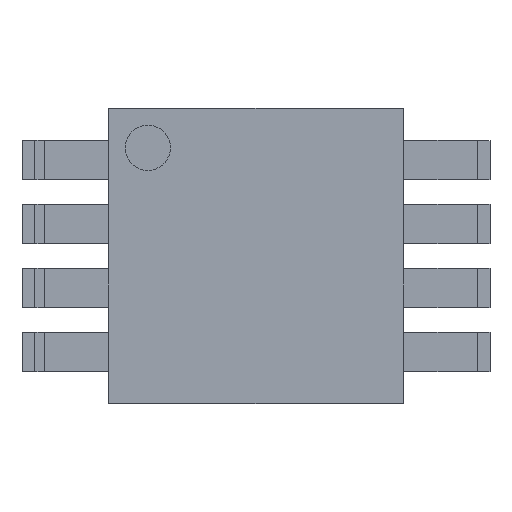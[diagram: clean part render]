
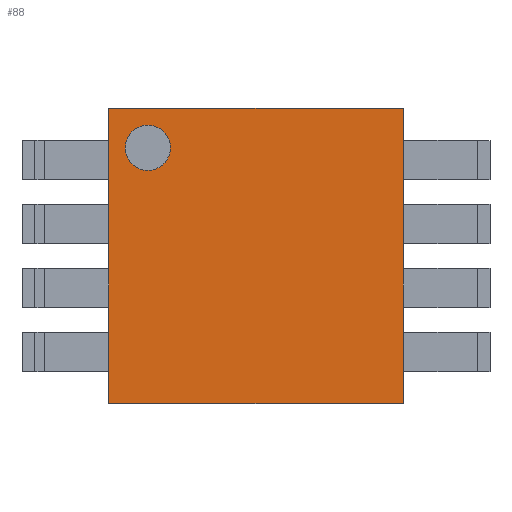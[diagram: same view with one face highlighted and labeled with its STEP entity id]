
A CAD part, top view. The second image highlights one B-rep face of the part: STEP entity #88.
In plain terms, the highlighted planar face has unit normal (0, 0, 1).
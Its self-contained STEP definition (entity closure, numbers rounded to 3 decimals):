
#24 = VERTEX_POINT('',#25);
#25 = CARTESIAN_POINT('',(-1.5,-1.5,1.15));
#40 = VERTEX_POINT('',#41);
#41 = CARTESIAN_POINT('',(-1.5,1.5,1.15));
#47 = EDGE_CURVE('',#24,#40,#48,.T.);
#48 = LINE('',#49,#50);
#49 = CARTESIAN_POINT('',(-1.5,-1.5,1.15));
#50 = VECTOR('',#51,1.);
#51 = DIRECTION('',(0.,1.,0.));
#70 = EDGE_CURVE('',#24,#71,#73,.T.);
#71 = VERTEX_POINT('',#72);
#72 = CARTESIAN_POINT('',(1.5,-1.5,1.15));
#73 = LINE('',#74,#75);
#74 = CARTESIAN_POINT('',(-1.5,-1.5,1.15));
#75 = VECTOR('',#76,1.);
#76 = DIRECTION('',(1.,0.,0.));
#88 = ADVANCED_FACE('',(#89,#107),#118,.T.);
#89 = FACE_BOUND('',#90,.T.);
#90 = EDGE_LOOP('',(#91,#92,#93,#101));
#91 = ORIENTED_EDGE('',*,*,#47,.F.);
#92 = ORIENTED_EDGE('',*,*,#70,.T.);
#93 = ORIENTED_EDGE('',*,*,#94,.T.);
#94 = EDGE_CURVE('',#71,#95,#97,.T.);
#95 = VERTEX_POINT('',#96);
#96 = CARTESIAN_POINT('',(1.5,1.5,1.15));
#97 = LINE('',#98,#99);
#98 = CARTESIAN_POINT('',(1.5,-1.5,1.15));
#99 = VECTOR('',#100,1.);
#100 = DIRECTION('',(0.,1.,0.));
#101 = ORIENTED_EDGE('',*,*,#102,.F.);
#102 = EDGE_CURVE('',#40,#95,#103,.T.);
#103 = LINE('',#104,#105);
#104 = CARTESIAN_POINT('',(-1.5,1.5,1.15));
#105 = VECTOR('',#106,1.);
#106 = DIRECTION('',(1.,0.,0.));
#107 = FACE_BOUND('',#108,.T.);
#108 = EDGE_LOOP('',(#109));
#109 = ORIENTED_EDGE('',*,*,#110,.F.);
#110 = EDGE_CURVE('',#111,#111,#113,.T.);
#111 = VERTEX_POINT('',#112);
#112 = CARTESIAN_POINT('',(-0.87,1.1,1.15));
#113 = CIRCLE('',#114,0.23);
#114 = AXIS2_PLACEMENT_3D('',#115,#116,#117);
#115 = CARTESIAN_POINT('',(-1.1,1.1,1.15));
#116 = DIRECTION('',(0.,0.,1.));
#117 = DIRECTION('',(1.,0.,0.));
#118 = PLANE('',#119);
#119 = AXIS2_PLACEMENT_3D('',#120,#121,#122);
#120 = CARTESIAN_POINT('',(-1.5,-1.5,1.15));
#121 = DIRECTION('',(0.,0.,1.));
#122 = DIRECTION('',(1.,0.,0.));
